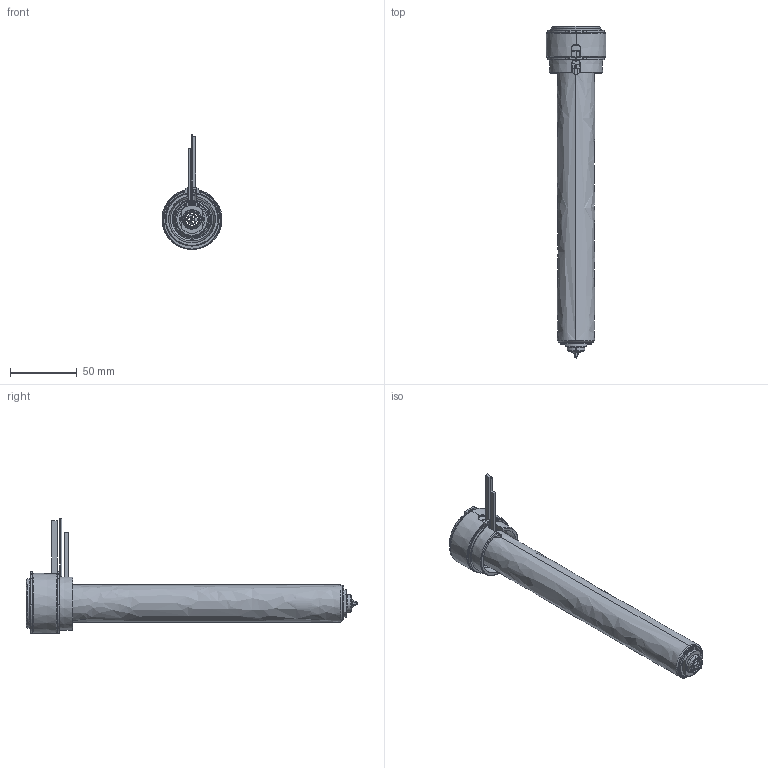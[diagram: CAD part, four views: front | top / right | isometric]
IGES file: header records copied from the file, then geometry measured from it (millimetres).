
Start section: SolidWorks IGES file using analytic representation for surfaces
Global section: file name: C:\Documents and Settings\ws-20\Desktop\TEM\UGEP4505-M-A-1 [Øf-1.31 ØC-10].IGS; native system: SolidWorks 2012; preprocessor: SolidWorks 2012; author: ws-20; date: 120424.091105; units: millimetre
Bounding box: 45 x 249.05 x 86.15 mm (x, y, z)
Surface area: 82633.6 mm2 (no closed solid volume)
Topology: 0 solids, 0 shells, 183 faces, 3495 edges, 3495 vertices
Faces by surface type: revolution 112, bspline 71
